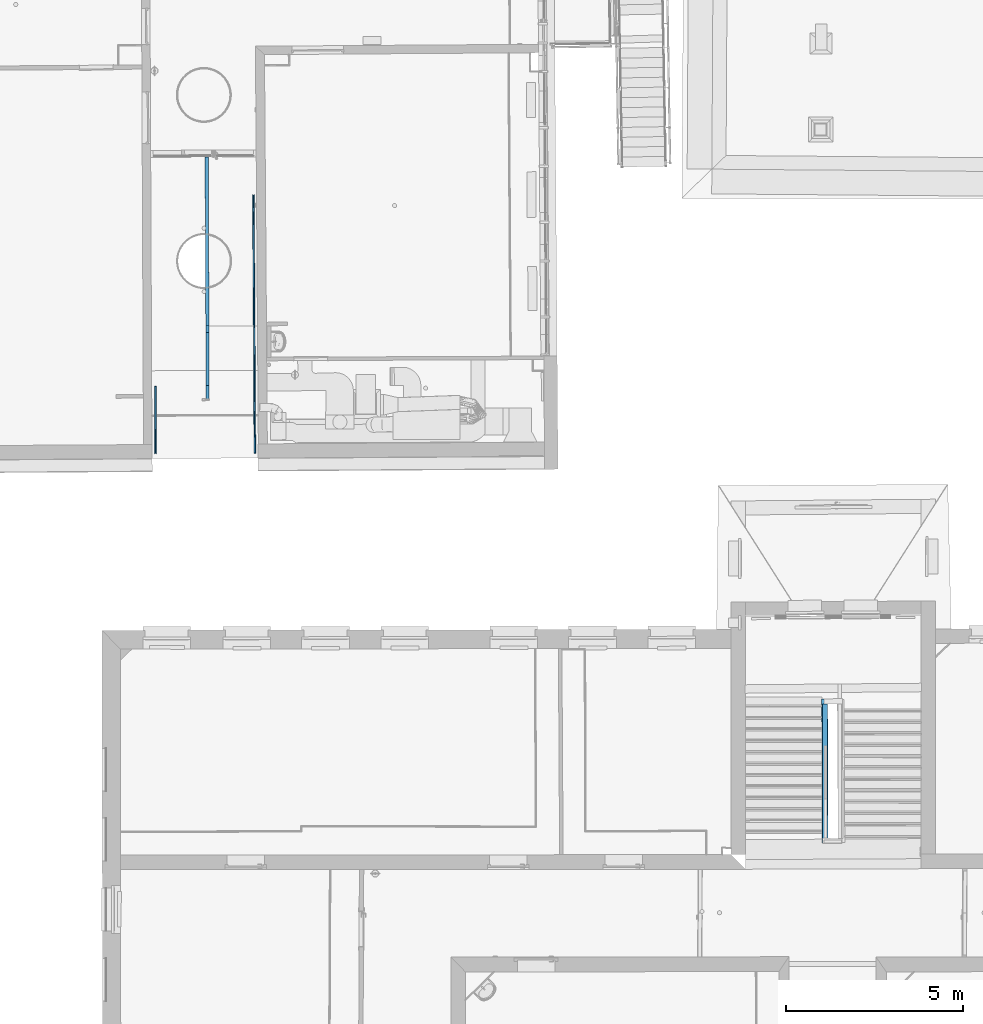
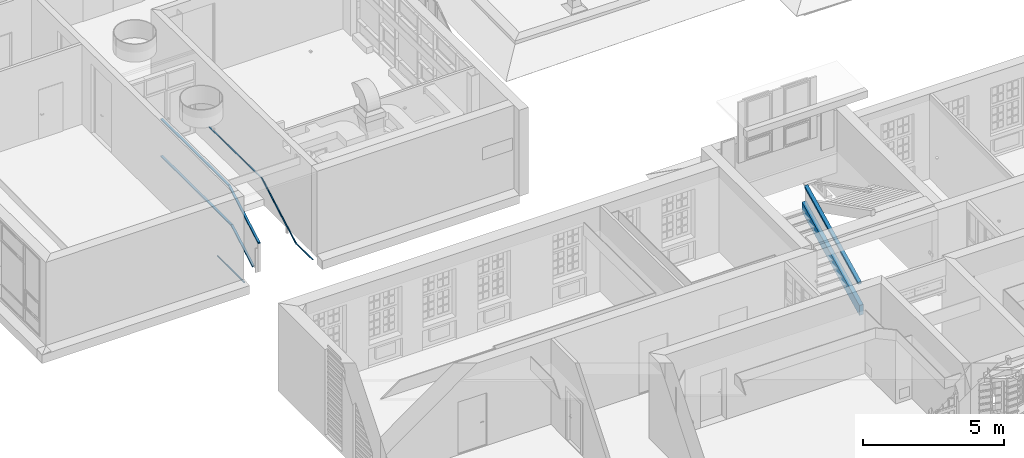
# One storey, part 4 of 158: 10 beams.
"""IFC2X3 building model written with IfcOpenShell, lengths in metres."""

from ifc_helpers import new_model, entity, si_unit, converted_unit, derived_unit, money_unit, direction, frame, frame_2d, origin_with_axes, place, context, subcontext, project, spatial, rectangle, extrude, clip, halfspace, material, type_object, element, save


model = new_model("IFC2X3")

# Units and contexts
model_context = context("Model", 3, precision=1e-05, world=origin_with_axes(), true_north=direction((0.0, 1.0)))
body_context = subcontext(model_context, "Body", "Model", "MODEL_VIEW")
ifc_project = project(units=[si_unit("LENGTHUNIT", "METRE"), si_unit("AREAUNIT", "SQUARE_METRE"), si_unit("VOLUMEUNIT", "CUBIC_METRE"), converted_unit("PLANEANGLEUNIT", "DEGREE", entity("IfcPlaneAngleMeasure", 0.0174532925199), si_unit("PLANEANGLEUNIT", "RADIAN"), dimensions=[0, 0, 0, 0, 0, 0, 0]), money_unit("EUR"), converted_unit("TIMEUNIT", "Year", entity("IfcTimeMeasure", 31556926.0), si_unit("TIMEUNIT", "SECOND"), dimensions=[0, 0, 1, 0, 0, 0, 0]), si_unit("MASSUNIT", "GRAM", prefix="KILO"), si_unit("THERMODYNAMICTEMPERATUREUNIT", "DEGREE_CELSIUS"), si_unit("LUMINOUSINTENSITYUNIT", "LUMEN"), si_unit("ENERGYUNIT", "JOULE", prefix="MEGA"), derived_unit("THERMALCONDUCTANCEUNIT", [(si_unit("POWERUNIT", "WATT"), 1), (si_unit("LENGTHUNIT", "METRE"), -1), (si_unit("THERMODYNAMICTEMPERATUREUNIT", "KELVIN"), -1)]), derived_unit("SPECIFICHEATCAPACITYUNIT", [(si_unit("ENERGYUNIT", "JOULE"), 1), (si_unit("MASSUNIT", "GRAM", prefix="KILO"), -1), (si_unit("THERMODYNAMICTEMPERATUREUNIT", "KELVIN"), -1)]), derived_unit("MASSDENSITYUNIT", [(si_unit("MASSUNIT", "GRAM", prefix="KILO"), 1), (si_unit("VOLUMEUNIT", "CUBIC_METRE"), -1)])], contexts=[model_context])

# Site, building, storey
site_placement = place(None, origin_with_axes())
site = spatial("IfcSite", under=ifc_project, at=site_placement, Name="Gelände", CompositionType="ELEMENT")
building_placement = place(site_placement, origin_with_axes())
building = spatial("IfcBuilding", under=site, at=building_placement, Name="Gebäude", CompositionType="ELEMENT")
storey_placement = place(building_placement, origin_with_axes())
storey = spatial("IfcBuildingStorey", under=building, at=storey_placement, Name="ERDGESCHOSS", CompositionType="ELEMENT", Elevation=0.0)

# Beams
ifc_material_1 = material(Name="05_ALLGEMEIN - TRAGENDE BAUTEILE")
beam_type_1 = type_object("IfcBeamType", Name="05_ALLGEMEIN - TRAGENDE BAUTEILE 145 x 80", PredefinedType="LINTEL")
beam_1_placement = place(storey_placement, frame((-7.52062028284, 23.9452678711, 2.81254674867), z_axis=(0.0, 0.0, 1.0), x_axis=(-0.999998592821, -0.00167760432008, 0.0)))
element("IfcBeam", 1, at=beam_1_placement, inside=storey, type_object=beam_type_1, material=ifc_material_1, Name="Unterzug-020", ObjectType="LINTEL", context=body_context, shape_type="Clipping", body=[
    clip(clip(extrude(rectangle(XDim=0.08, YDim=0.145, at=frame_2d((-0.04, 0.0725), x_axis=(1.0, 0.0))), frame((0.0, -0.0506536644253, 0.0253626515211), z_axis=(0.0, 0.894174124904, -0.447719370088), x_axis=(0.0, 0.447719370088, 0.894174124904)), (0.0, 0.0, 1.0), 4.36989294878), halfspace(frame((0.0, 0.0, 0.0), z_axis=(0.0, 1.0, 0.0), x_axis=(0.0, 0.0, 1.0)), True)), halfspace(frame((0.0, 3.80613787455, 0.0), z_axis=(0.0, -1.0, 0.0), x_axis=(0.0, 0.0, -1.0)), True)),
])
beam_type_2 = type_object("IfcBeamType", Name="05_ALLGEMEIN - TRAGENDE BAUTEILE 90 x 50", PredefinedType="LINTEL")
beam_2_placement = place(storey_placement, frame((-25.1235711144, 32.5389829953, 1.22349311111), z_axis=(0.0, 0.0, 1.0), x_axis=(0.999995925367, 0.00285468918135, 0.0)))
element("IfcBeam", 2, at=beam_2_placement, inside=storey, type_object=beam_type_2, material=ifc_material_1, Name="Unterzug-004", ObjectType="LINTEL", context=body_context, shape_type="Clipping", body=[
    clip(clip(extrude(rectangle(XDim=0.05, YDim=0.09, at=frame_2d((-0.025, 0.045), x_axis=(1.0, 0.0))), frame((0.0, -0.035357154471, -0.0204148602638), z_axis=(0.0, 0.866010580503, 0.500025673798), x_axis=(0.0, -0.500025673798, 0.866010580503)), (0.0, 0.0, 1.0), 2.52576930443), halfspace(frame((0.0, 0.0, 0.0), z_axis=(0.0, 1.0, 0.0), x_axis=(0.0, 0.0, 1.0)), True)), halfspace(frame((0.0, 2.1166286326, 0.0), z_axis=(0.0, -1.0, 0.0), x_axis=(0.0, 0.0, -1.0)), True)),
])
beam_3_placement = place(storey_placement, frame((-25.1247014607, 32.9552413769, -0.0860268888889), z_axis=(0.0, 0.0, 1.0), x_axis=(0.999996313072, 0.00271548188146, 0.0)))
element("IfcBeam", 3, at=beam_3_placement, inside=storey, type_object=beam_type_2, material=ifc_material_1, Name="Unterzug-004", ObjectType="LINTEL", context=body_context, shape_type="Clipping", body=[
    clip(clip(extrude(rectangle(XDim=0.05, YDim=0.09, at=frame_2d((0.025, 0.045), x_axis=(1.0, 0.0))), frame((0.0, -0.0353044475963, -0.0203439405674), z_axis=(0.0, 0.866440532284, 0.499280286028), x_axis=(0.0, -0.499280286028, 0.866440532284)), (0.0, 0.0, 1.0), 1.82480522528), halfspace(frame((0.0, 0.0, 0.0), z_axis=(0.0, 1.0, 0.0), x_axis=(0.0, 0.0, 1.0)), True)), halfspace(frame((0.0, 1.51047631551, 0.0), z_axis=(0.0, -1.0, 0.0), x_axis=(0.0, 0.0, -1.0)), True)),
])
beam_4_placement = place(storey_placement, frame((-25.1288031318, 34.4657121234, 0.792320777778), z_axis=(0.0, 0.0, 1.0), x_axis=(0.99999089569, 0.00426714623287, 0.0)))
element("IfcBeam", 4, at=beam_4_placement, inside=storey, type_object=beam_type_2, material=ifc_material_1, Name="Unterzug-005", ObjectType="LINTEL", context=body_context, shape_type="SweptSolid", body=[
    extrude(rectangle(XDim=0.05, YDim=0.09, at=frame_2d((0.025, 0.045), x_axis=(1.0, 0.0))), frame((0.0, 0.0, 0.0), z_axis=(0.0, 1.0, 0.0), x_axis=(0.0, 0.0, 1.0)), (0.0, 0.0, 1.0), 4.96339315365),
])
ifc_material_2 = material(Name="01_ALLGEMEIN - BAUTEIL")
beam_type_3 = type_object("IfcBeamType", Name="01_ALLGEMEIN - BAUTEIL 90 x 50", PredefinedType="LINTEL")
beam_5_placement = place(storey_placement, frame((-25.0602692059, 39.4294483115, 2.44561288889), z_axis=(0.0, 0.0, 1.0), x_axis=(-0.999990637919, -0.00432713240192, 0.0)))
element("IfcBeam", 5, at=beam_5_placement, inside=storey, type_object=beam_type_3, material=ifc_material_2, Name="Unterzug-005", ObjectType="LINTEL", context=body_context, shape_type="SweptSolid", body=[
    extrude(rectangle(XDim=0.05, YDim=0.09, at=frame_2d((-0.025, 0.045), x_axis=(1.0, 0.0))), frame((0.0, 0.0, 0.0), z_axis=(0.0, 1.0, 0.0), x_axis=(0.0, 0.0, 1.0)), (0.0, 0.0, 1.0), 4.77363307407),
])
beam_type_4 = type_object("IfcBeamType", Name="01_ALLGEMEIN - BAUTEIL 40 x 40", PredefinedType="LINTEL")
beam_6_placement = place(storey_placement, frame((-26.5784775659, 32.9366808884, 0.948580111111), z_axis=(0.0, 0.0, 1.0), x_axis=(-0.999997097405, -0.00240939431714, 0.0)))
element("IfcBeam", 6, at=beam_6_placement, inside=storey, type_object=beam_type_4, material=ifc_material_2, Name="Unterzug-007", ObjectType="LINTEL", context=body_context, shape_type="Clipping", body=[
    clip(clip(extrude(rectangle(XDim=0.04, YDim=0.04, at=frame_2d((-0.02, -0.02), x_axis=(1.0, 0.0))), frame((0.0, -0.000143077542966, 3.61883970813e-07), z_axis=(0.0, 0.999996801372, -0.00252927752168), x_axis=(0.0, 0.00252927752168, 0.999996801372)), (0.0, 0.0, 1.0), 1.90517795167), halfspace(frame((0.0, 0.0, 0.0), z_axis=(0.0, 1.0, 0.0), x_axis=(0.0, 0.0, 1.0)), True)), halfspace(frame((0.0, 1.90488570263, 0.0), z_axis=(0.0, -1.0, 0.0), x_axis=(0.0, 0.0, -1.0)), True)),
])
beam_7_placement = place(storey_placement, frame((-23.7174503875, 31.0471791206, 0.935815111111), z_axis=(0.0, 0.0, 1.0), x_axis=(0.999960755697, 0.00885929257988, 0.0)))
element("IfcBeam", 7, at=beam_7_placement, inside=storey, type_object=beam_type_4, material=ifc_material_2, Name="Unterzug-008", ObjectType="LINTEL", context=body_context, shape_type="Clipping", body=[
    clip(clip(extrude(rectangle(XDim=0.04, YDim=0.04, at=frame_2d((-0.02, -0.02), x_axis=(1.0, 0.0))), frame((0.0, -0.000255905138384, 1.15767716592e-06), z_axis=(0.0, 0.999989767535, -0.00452380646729), x_axis=(0.0, 0.00452380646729, 0.999989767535)), (0.0, 0.0, 1.0), 1.16656523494), halfspace(frame((0.0, 0.0, 0.0), z_axis=(0.0, 1.0, 0.0), x_axis=(0.0, 0.0, 1.0)), True)), halfspace(frame((0.0, 1.16604148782, 0.0), z_axis=(0.0, -1.0, 0.0), x_axis=(0.0, 0.0, -1.0)), True)),
])
beam_8_placement = place(storey_placement, frame((-23.7274931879, 32.2130811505, 0.930484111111), z_axis=(0.0, 0.0, 1.0), x_axis=(0.999989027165, 0.0046846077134, 0.0)))
element("IfcBeam", 8, at=beam_8_placement, inside=storey, type_object=beam_type_4, material=ifc_material_2, Name="Unterzug-009", ObjectType="LINTEL", context=body_context, shape_type="Clipping", body=[
    clip(clip(extrude(rectangle(XDim=0.04, YDim=0.04, at=frame_2d((-0.02, -0.02), x_axis=(1.0, 0.0))), frame((0.0, -0.0281577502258, -0.0161601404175), z_axis=(0.0, 0.867312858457, 0.49776340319), x_axis=(0.0, -0.49776340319, 0.867312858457)), (0.0, 0.0, 1.0), 2.826295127), halfspace(frame((0.0, 0.0, 0.0), z_axis=(0.0, 1.0, 0.0), x_axis=(0.0, 0.0, 1.0)), True)), halfspace(frame((0.0, 2.39496660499, 0.0), z_axis=(0.0, -1.0, 0.0), x_axis=(0.0, 0.0, -1.0)), True)),
])
beam_9_placement = place(storey_placement, frame((-23.7383444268, 34.6075111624, 2.30453511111), z_axis=(0.0, 0.0, 1.0), x_axis=(0.999978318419, 0.00658503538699, 0.0)))
element("IfcBeam", 9, at=beam_9_placement, inside=storey, type_object=beam_type_4, material=ifc_material_2, Name="Unterzug-010", ObjectType="LINTEL", context=body_context, shape_type="Clipping", body=[
    clip(clip(extrude(rectangle(XDim=0.04, YDim=0.04, at=frame_2d((-0.02, -0.02), x_axis=(1.0, 0.0))), frame((0.0, -8.19138980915e-05, 1.18615284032e-07), z_axis=(0.0, 0.99999895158, -0.00144804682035), x_axis=(0.0, 0.00144804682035, 0.99999895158)), (0.0, 0.0, 1.0), 3.75625784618), halfspace(frame((0.0, 0.0, 0.0), z_axis=(0.0, 1.0, 0.0), x_axis=(0.0, 0.0, 1.0)), True)), halfspace(frame((0.0, 3.75609008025, 0.0), z_axis=(0.0, -1.0, 0.0), x_axis=(0.0, 0.0, -1.0)), True)),
])
beam_type_5 = type_object("IfcBeamType", Name="05_ALLGEMEIN - TRAGENDE BAUTEILE 170 x 390", PredefinedType="LINTEL")
beam_10_placement = place(storey_placement, frame((-7.68232675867, 20.0092425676, -0.438004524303), z_axis=(0.0, 0.0, 1.0), x_axis=(0.999999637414, 0.000851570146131, 0.0)))
element("IfcBeam", 10, at=beam_10_placement, inside=storey, type_object=beam_type_5, material=ifc_material_1, Name="Unterzug-020", ObjectType="LINTEL", context=body_context, shape_type="Clipping", body=[
    clip(clip(extrude(rectangle(XDim=0.389549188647, YDim=0.17, at=frame_2d((0.194774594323, 0.085), x_axis=(1.0, 0.0))), frame((0.0, -0.245948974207, -0.122710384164), z_axis=(0.0, 0.894811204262, 0.446444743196), x_axis=(0.0, -0.446444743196, 0.894811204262)), (0.0, 0.0, 1.0), 5.09704342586), halfspace(frame((0.0, 0.0, 0.0), z_axis=(0.0, 1.0, 0.0), x_axis=(0.0, 0.0, 1.0)), True)), halfspace(frame((0.0, 4.06899361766, 0.0), z_axis=(0.0, -1.0, 0.0), x_axis=(0.0, 0.0, -1.0)), True)),
])

save(model, "model.ifc")
